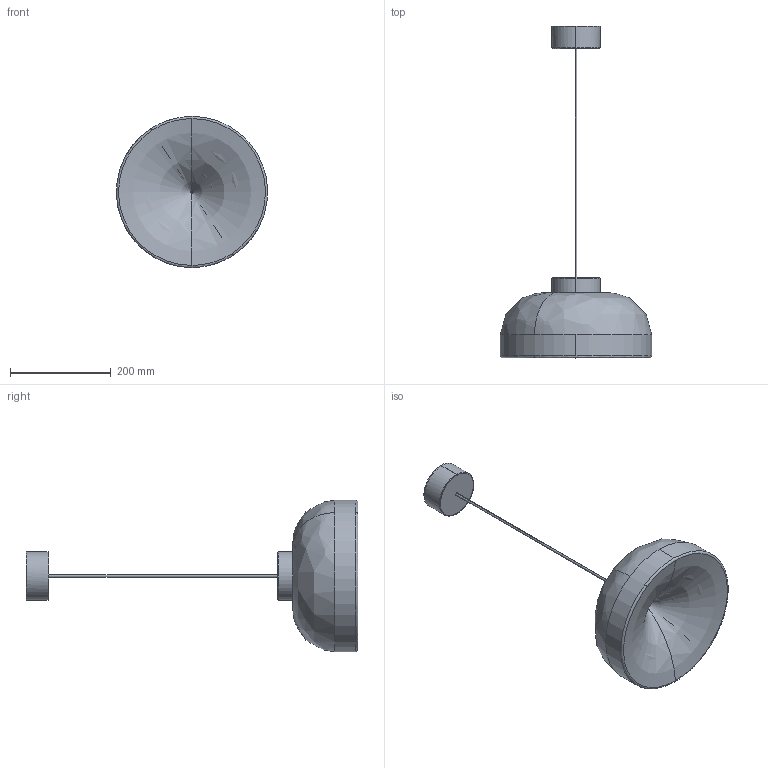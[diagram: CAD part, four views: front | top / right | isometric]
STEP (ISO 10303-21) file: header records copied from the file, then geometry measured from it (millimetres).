
FILE_DESCRIPTION (( 'STEP AP203' ), '1' );
FILE_NAME ('AELLA_mini-S-30_EU.STEP', '2018-01-16T18:19:45', ( '' ), ( '' ), 'SwSTEP 2.0', 'SolidWorks 2016', '' );
FILE_SCHEMA (( 'CONFIG_CONTROL_DESIGN' ));
Length unit declared in the file: millimetre
Products named in the file (1): AELLA_mini-S-30_EU
Bounding box: 299.84 x 658.18 x 300 mm (x, y, z)
Volume: 742032.4 mm3; surface area: 544891.4 mm2
Topology: 5 solids, 5 shells, 90 faces, 221 edges, 142 vertices
Faces by surface type: cylinder 37, bspline 26, plane 17, cone 8, torus 2
Entity records: 6088 total; most frequent: CARTESIAN_POINT 4000, ORIENTED_EDGE 434, DIRECTION 403, EDGE_CURVE 217, AXIS2_PLACEMENT_3D 173, VERTEX_POINT 142, EDGE_LOOP 115, CIRCLE 108
